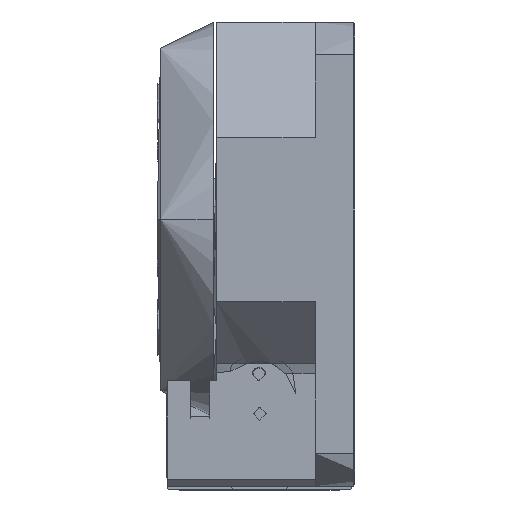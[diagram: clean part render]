
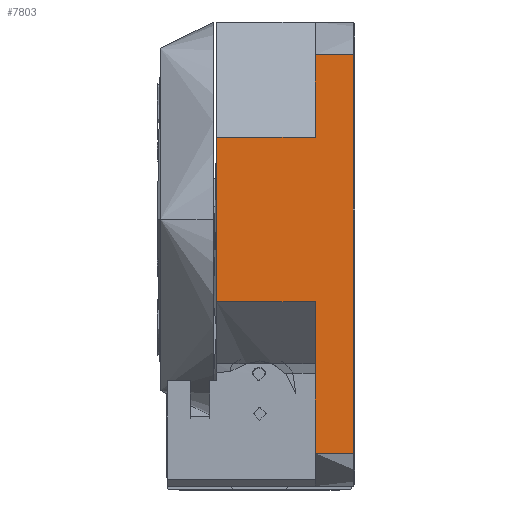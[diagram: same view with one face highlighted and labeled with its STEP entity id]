
A CAD part, left-side view. The second image highlights one B-rep face of the part: STEP entity #7803.
In plain terms, the highlighted planar face has unit normal (-1, 0, 0).
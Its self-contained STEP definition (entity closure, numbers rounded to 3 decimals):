
#320 = EDGE_CURVE ( 'NONE', #4865, #36226, #29648, .T. ) ;
#632 = LINE ( 'NONE', #6481, #21062 ) ;
#645 = CARTESIAN_POINT ( 'NONE',  ( -30., 6., 30. ) ) ;
#1535 = DIRECTION ( 'NONE',  ( 0., 1., 0. ) ) ;
#1801 = VERTEX_POINT ( 'NONE', #13389 ) ;
#2476 = AXIS2_PLACEMENT_3D ( 'NONE', #31706, #14659, #14524 ) ;
#2931 = VECTOR ( 'NONE', #18159, 1000. ) ;
#4774 = EDGE_CURVE ( 'NONE', #36226, #1801, #632, .T. ) ;
#4865 = VERTEX_POINT ( 'NONE', #27126 ) ;
#4869 = LINE ( 'NONE', #28815, #33875 ) ;
#6075 = ORIENTED_EDGE ( 'NONE', *, *, #12331, .F. ) ;
#6313 = LINE ( 'NONE', #16856, #32145 ) ;
#6481 = CARTESIAN_POINT ( 'NONE',  ( -30., 21., 30. ) ) ;
#7327 = EDGE_CURVE ( 'NONE', #35704, #4865, #13674, .T. ) ;
#7505 = CARTESIAN_POINT ( 'NONE',  ( -30., 21., -12.5 ) ) ;
#7803 = ADVANCED_FACE ( 'NONE', ( #24047 ), #23120, .F. ) ;
#8353 = VECTOR ( 'NONE', #1535, 1000. ) ;
#9271 = ORIENTED_EDGE ( 'NONE', *, *, #14888, .F. ) ;
#9456 = EDGE_LOOP ( 'NONE', ( #19237, #9271, #28381, #10440, #20671, #32356, #6075, #29247 ) ) ;
#10254 = CARTESIAN_POINT ( 'NONE',  ( -30., 0.2, 25. ) ) ;
#10440 = ORIENTED_EDGE ( 'NONE', *, *, #4774, .F. ) ;
#10649 = CARTESIAN_POINT ( 'NONE',  ( -30., 6., 12.5 ) ) ;
#11550 = LINE ( 'NONE', #645, #2931 ) ;
#11800 = DIRECTION ( 'NONE',  ( 0., 0., -1. ) ) ;
#11961 = VECTOR ( 'NONE', #16711, 1000. ) ;
#12331 = EDGE_CURVE ( 'NONE', #28338, #35704, #4869, .T. ) ;
#13389 = CARTESIAN_POINT ( 'NONE',  ( -30., 21., 12.5 ) ) ;
#13674 = LINE ( 'NONE', #26351, #35464 ) ;
#14524 = DIRECTION ( 'NONE',  ( 0., 0., -1. ) ) ;
#14659 = DIRECTION ( 'NONE',  ( 1., 0., 0. ) ) ;
#14888 = EDGE_CURVE ( 'NONE', #31568, #18082, #11550, .T. ) ;
#15482 = DIRECTION ( 'NONE',  ( 0., 0., 1. ) ) ;
#16711 = DIRECTION ( 'NONE',  ( 0., -1., 0. ) ) ;
#16856 = CARTESIAN_POINT ( 'NONE',  ( -30., 0.2, 30. ) ) ;
#17183 = DIRECTION ( 'NONE',  ( 0., 1., 0. ) ) ;
#17848 = LINE ( 'NONE', #27963, #11961 ) ;
#18082 = VERTEX_POINT ( 'NONE', #18338 ) ;
#18159 = DIRECTION ( 'NONE',  ( 0., 0., 1. ) ) ;
#18338 = CARTESIAN_POINT ( 'NONE',  ( -30., 6., 25. ) ) ;
#18685 = EDGE_CURVE ( 'NONE', #18082, #36619, #30980, .T. ) ;
#19237 = ORIENTED_EDGE ( 'NONE', *, *, #18685, .F. ) ;
#19687 = EDGE_CURVE ( 'NONE', #1801, #31568, #17848, .T. ) ;
#20671 = ORIENTED_EDGE ( 'NONE', *, *, #320, .F. ) ;
#21062 = VECTOR ( 'NONE', #15482, 1000. ) ;
#22177 = CARTESIAN_POINT ( 'NONE',  ( -30., 21., 25. ) ) ;
#23120 = PLANE ( 'NONE',  #2476 ) ;
#24047 = FACE_OUTER_BOUND ( 'NONE', #9456, .T. ) ;
#24406 = EDGE_CURVE ( 'NONE', #36619, #28338, #6313, .T. ) ;
#24424 = CARTESIAN_POINT ( 'NONE',  ( -30., 0.2, -35.5 ) ) ;
#25416 = CARTESIAN_POINT ( 'NONE',  ( -30., 6., -35.5 ) ) ;
#26351 = CARTESIAN_POINT ( 'NONE',  ( -30., 6., 30. ) ) ;
#27126 = CARTESIAN_POINT ( 'NONE',  ( -30., 6., -12.5 ) ) ;
#27963 = CARTESIAN_POINT ( 'NONE',  ( -30., 21., 12.5 ) ) ;
#27990 = DIRECTION ( 'NONE',  ( 0., -1., 0. ) ) ;
#28338 = VERTEX_POINT ( 'NONE', #24424 ) ;
#28381 = ORIENTED_EDGE ( 'NONE', *, *, #19687, .F. ) ;
#28397 = CARTESIAN_POINT ( 'NONE',  ( -30., 21., -12.5 ) ) ;
#28815 = CARTESIAN_POINT ( 'NONE',  ( -30., 21., -35.5 ) ) ;
#29247 = ORIENTED_EDGE ( 'NONE', *, *, #24406, .F. ) ;
#29594 = DIRECTION ( 'NONE',  ( 0., 0., 1. ) ) ;
#29648 = LINE ( 'NONE', #7505, #8353 ) ;
#30980 = LINE ( 'NONE', #22177, #33258 ) ;
#31568 = VERTEX_POINT ( 'NONE', #10649 ) ;
#31706 = CARTESIAN_POINT ( 'NONE',  ( -30., 21., 30. ) ) ;
#32145 = VECTOR ( 'NONE', #11800, 1000. ) ;
#32356 = ORIENTED_EDGE ( 'NONE', *, *, #7327, .F. ) ;
#33258 = VECTOR ( 'NONE', #27990, 1000. ) ;
#33875 = VECTOR ( 'NONE', #17183, 1000. ) ;
#35464 = VECTOR ( 'NONE', #29594, 1000. ) ;
#35704 = VERTEX_POINT ( 'NONE', #25416 ) ;
#36226 = VERTEX_POINT ( 'NONE', #28397 ) ;
#36619 = VERTEX_POINT ( 'NONE', #10254 ) ;
